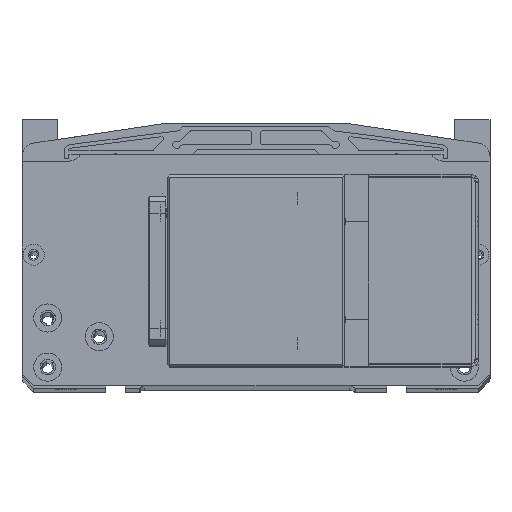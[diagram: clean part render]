
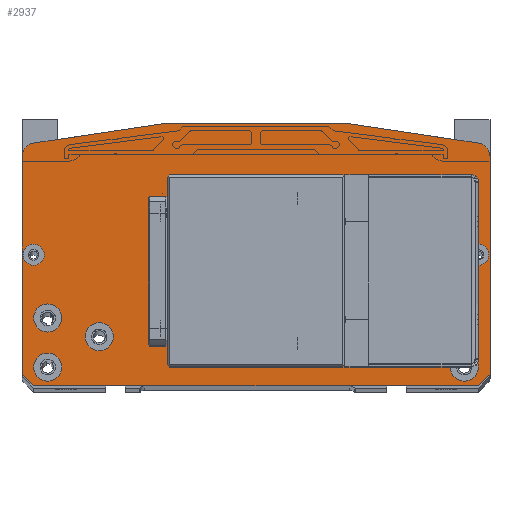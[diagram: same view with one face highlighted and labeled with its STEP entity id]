
A CAD part, top view. The second image highlights one B-rep face of the part: STEP entity #2937.
In plain terms, the highlighted planar face has unit normal (0, 0, 1).
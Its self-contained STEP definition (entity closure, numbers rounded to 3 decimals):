
#580=FACE_BOUND('',#5321,.T.);
#581=FACE_BOUND('',#5322,.T.);
#582=FACE_BOUND('',#5323,.T.);
#583=FACE_BOUND('',#5324,.T.);
#584=FACE_BOUND('',#5325,.T.);
#585=FACE_BOUND('',#5326,.T.);
#586=FACE_BOUND('',#5327,.T.);
#587=FACE_BOUND('',#5328,.T.);
#588=FACE_BOUND('',#5329,.T.);
#589=FACE_BOUND('',#5330,.T.);
#590=FACE_BOUND('',#5331,.T.);
#591=FACE_BOUND('',#5332,.T.);
#592=FACE_BOUND('',#5333,.T.);
#1235=PLANE('',#19442);
#1940=CIRCLE('',#19324,1.65);
#1955=CIRCLE('',#19353,1.65);
#1960=CIRCLE('',#19367,6.);
#1967=CIRCLE('',#19381,6.);
#1968=CIRCLE('',#19384,4.5);
#1972=CIRCLE('',#19391,4.5);
#1976=CIRCLE('',#19398,6.);
#1980=CIRCLE('',#19405,6.);
#1984=CIRCLE('',#19412,6.);
#1988=CIRCLE('',#19419,6.);
#1992=CIRCLE('',#19426,6.);
#1996=CIRCLE('',#19433,6.);
#2937=ADVANCED_FACE('',(#580,#581,#582,#583,#584,#585,#586,#587,#588,#589,
#590,#591,#592),#1235,.F.);
#5321=EDGE_LOOP('',(#11974,#11975,#11976,#11977));
#5322=EDGE_LOOP('',(#11978,#11979,#11980,#11981));
#5323=EDGE_LOOP('',(#11982));
#5324=EDGE_LOOP('',(#11983));
#5325=EDGE_LOOP('',(#11984,#11985,#11986,#11987,#11988,#11989,#11990,#11991,
#11992,#11993));
#5326=EDGE_LOOP('',(#11994));
#5327=EDGE_LOOP('',(#11995));
#5328=EDGE_LOOP('',(#11996));
#5329=EDGE_LOOP('',(#11997));
#5330=EDGE_LOOP('',(#11998));
#5331=EDGE_LOOP('',(#11999));
#5332=EDGE_LOOP('',(#12000));
#5333=EDGE_LOOP('',(#12001));
#6043=LINE('',#27149,#7455);
#6239=LINE('',#28205,#7651);
#6259=LINE('',#28250,#7671);
#6864=LINE('',#32266,#8276);
#6868=LINE('',#32274,#8280);
#6871=LINE('',#32280,#8283);
#6891=LINE('',#32316,#8303);
#6911=LINE('',#32488,#8323);
#6913=LINE('',#32491,#8325);
#6919=LINE('',#32504,#8331);
#6922=LINE('',#32510,#8334);
#6935=LINE('',#32546,#8347);
#6937=LINE('',#32631,#8349);
#6938=LINE('',#32634,#8350);
#6939=LINE('',#32636,#8351);
#6940=LINE('',#32638,#8352);
#7455=VECTOR('',#20714,1.);
#7651=VECTOR('',#21166,1.);
#7671=VECTOR('',#21216,1.);
#8276=VECTOR('',#23269,1.);
#8280=VECTOR('',#23275,1.);
#8283=VECTOR('',#23280,1.);
#8303=VECTOR('',#23312,1.);
#8323=VECTOR('',#23528,1.);
#8325=VECTOR('',#23532,1.);
#8331=VECTOR('',#23540,1.);
#8334=VECTOR('',#23545,1.);
#8347=VECTOR('',#23592,1.);
#8349=VECTOR('',#23712,1.);
#8350=VECTOR('',#23713,1.);
#8351=VECTOR('',#23714,1.);
#8352=VECTOR('',#23715,1.);
#11974=ORIENTED_EDGE('',*,*,#17343,.F.);
#11975=ORIENTED_EDGE('',*,*,#17344,.F.);
#11976=ORIENTED_EDGE('',*,*,#17345,.T.);
#11977=ORIENTED_EDGE('',*,*,#17346,.T.);
#11978=ORIENTED_EDGE('',*,*,#17186,.T.);
#11979=ORIENTED_EDGE('',*,*,#17189,.T.);
#11980=ORIENTED_EDGE('',*,*,#17209,.T.);
#11981=ORIENTED_EDGE('',*,*,#17182,.T.);
#11982=ORIENTED_EDGE('',*,*,#17244,.T.);
#11983=ORIENTED_EDGE('',*,*,#17272,.T.);
#11984=ORIENTED_EDGE('',*,*,#17277,.F.);
#11985=ORIENTED_EDGE('',*,*,#16119,.T.);
#11986=ORIENTED_EDGE('',*,*,#17309,.F.);
#11987=ORIENTED_EDGE('',*,*,#16143,.T.);
#11988=ORIENTED_EDGE('',*,*,#17308,.F.);
#11989=ORIENTED_EDGE('',*,*,#17279,.F.);
#11990=ORIENTED_EDGE('',*,*,#17285,.T.);
#11991=ORIENTED_EDGE('',*,*,#17288,.F.);
#11992=ORIENTED_EDGE('',*,*,#17289,.F.);
#11993=ORIENTED_EDGE('',*,*,#15841,.T.);
#11994=ORIENTED_EDGE('',*,*,#17339,.T.);
#11995=ORIENTED_EDGE('',*,*,#17335,.T.);
#11996=ORIENTED_EDGE('',*,*,#17331,.T.);
#11997=ORIENTED_EDGE('',*,*,#17327,.T.);
#11998=ORIENTED_EDGE('',*,*,#17323,.T.);
#11999=ORIENTED_EDGE('',*,*,#17319,.T.);
#12000=ORIENTED_EDGE('',*,*,#17315,.T.);
#12001=ORIENTED_EDGE('',*,*,#17311,.T.);
#14028=VERTEX_POINT('',#27148);
#14029=VERTEX_POINT('',#27150);
#14202=VERTEX_POINT('',#28204);
#14203=VERTEX_POINT('',#28206);
#14212=VERTEX_POINT('',#28249);
#14213=VERTEX_POINT('',#28251);
#14895=VERTEX_POINT('',#32256);
#14899=VERTEX_POINT('',#32265);
#14902=VERTEX_POINT('',#32273);
#14904=VERTEX_POINT('',#32279);
#14945=VERTEX_POINT('',#32413);
#14962=VERTEX_POINT('',#32472);
#14969=VERTEX_POINT('',#32492);
#14970=VERTEX_POINT('',#32493);
#14974=VERTEX_POINT('',#32503);
#14976=VERTEX_POINT('',#32509);
#14983=VERTEX_POINT('',#32550);
#14986=VERTEX_POINT('',#32560);
#14989=VERTEX_POINT('',#32570);
#14992=VERTEX_POINT('',#32580);
#14995=VERTEX_POINT('',#32590);
#14998=VERTEX_POINT('',#32600);
#15001=VERTEX_POINT('',#32610);
#15004=VERTEX_POINT('',#32620);
#15007=VERTEX_POINT('',#32632);
#15008=VERTEX_POINT('',#32633);
#15009=VERTEX_POINT('',#32635);
#15010=VERTEX_POINT('',#32637);
#15841=EDGE_CURVE('',#14029,#14028,#6043,.T.);
#16119=EDGE_CURVE('',#14203,#14202,#6239,.T.);
#16143=EDGE_CURVE('',#14213,#14212,#6259,.T.);
#17182=EDGE_CURVE('',#14895,#14899,#6864,.T.);
#17186=EDGE_CURVE('',#14899,#14902,#6868,.T.);
#17189=EDGE_CURVE('',#14902,#14904,#6871,.T.);
#17209=EDGE_CURVE('',#14904,#14895,#6891,.T.);
#17244=EDGE_CURVE('',#14945,#14945,#1940,.T.);
#17272=EDGE_CURVE('',#14962,#14962,#1955,.T.);
#17277=EDGE_CURVE('',#14203,#14028,#6911,.T.);
#17279=EDGE_CURVE('',#14969,#14970,#6913,.T.);
#17285=EDGE_CURVE('',#14969,#14974,#6919,.T.);
#17288=EDGE_CURVE('',#14976,#14974,#6922,.T.);
#17289=EDGE_CURVE('',#14029,#14976,#1960,.T.);
#17308=EDGE_CURVE('',#14970,#14212,#1967,.T.);
#17309=EDGE_CURVE('',#14213,#14202,#6935,.T.);
#17311=EDGE_CURVE('',#14983,#14983,#1968,.T.);
#17315=EDGE_CURVE('',#14986,#14986,#1972,.T.);
#17319=EDGE_CURVE('',#14989,#14989,#1976,.T.);
#17323=EDGE_CURVE('',#14992,#14992,#1980,.T.);
#17327=EDGE_CURVE('',#14995,#14995,#1984,.T.);
#17331=EDGE_CURVE('',#14998,#14998,#1988,.T.);
#17335=EDGE_CURVE('',#15001,#15001,#1992,.T.);
#17339=EDGE_CURVE('',#15004,#15004,#1996,.T.);
#17343=EDGE_CURVE('',#15007,#15008,#6937,.T.);
#17344=EDGE_CURVE('',#15009,#15007,#6938,.T.);
#17345=EDGE_CURVE('',#15009,#15010,#6939,.T.);
#17346=EDGE_CURVE('',#15010,#15008,#6940,.T.);
#19324=AXIS2_PLACEMENT_3D('',#32412,#23437,#23438);
#19353=AXIS2_PLACEMENT_3D('',#32471,#23508,#23509);
#19367=AXIS2_PLACEMENT_3D('',#32512,#23548,#23549);
#19381=AXIS2_PLACEMENT_3D('',#32544,#23588,#23589);
#19384=AXIS2_PLACEMENT_3D('',#32549,#23596,#23597);
#19391=AXIS2_PLACEMENT_3D('',#32559,#23610,#23611);
#19398=AXIS2_PLACEMENT_3D('',#32569,#23624,#23625);
#19405=AXIS2_PLACEMENT_3D('',#32579,#23638,#23639);
#19412=AXIS2_PLACEMENT_3D('',#32589,#23652,#23653);
#19419=AXIS2_PLACEMENT_3D('',#32599,#23666,#23667);
#19426=AXIS2_PLACEMENT_3D('',#32609,#23680,#23681);
#19433=AXIS2_PLACEMENT_3D('',#32619,#23694,#23695);
#19442=AXIS2_PLACEMENT_3D('',#32639,#23716,#23717);
#20714=DIRECTION('',(0.,-1.,0.));
#21166=DIRECTION('',(1.,0.,0.));
#21216=DIRECTION('',(0.,1.,0.));
#23269=DIRECTION('',(0.,1.,0.));
#23275=DIRECTION('',(1.,0.,0.));
#23280=DIRECTION('',(0.,-1.,0.));
#23312=DIRECTION('',(-1.,0.,0.));
#23437=DIRECTION('',(0.,0.,-1.));
#23438=DIRECTION('',(1.,0.,0.));
#23508=DIRECTION('',(0.,0.,-1.));
#23509=DIRECTION('',(1.,0.,0.));
#23528=DIRECTION('',(-0.707,0.707,0.));
#23532=DIRECTION('',(0.989,-0.148,0.));
#23540=DIRECTION('',(-1.,0.,0.));
#23545=DIRECTION('',(0.989,0.148,0.));
#23548=DIRECTION('',(0.,0.,-1.));
#23549=DIRECTION('',(-1.,0.,0.));
#23588=DIRECTION('',(0.,0.,-1.));
#23589=DIRECTION('',(0.148,0.989,0.));
#23592=DIRECTION('',(-0.707,-0.707,0.));
#23596=DIRECTION('',(0.,0.,-1.));
#23597=DIRECTION('',(1.,0.,0.));
#23610=DIRECTION('',(0.,0.,-1.));
#23611=DIRECTION('',(1.,0.,0.));
#23624=DIRECTION('',(0.,0.,-1.));
#23625=DIRECTION('',(1.,0.,0.));
#23638=DIRECTION('',(0.,0.,-1.));
#23639=DIRECTION('',(1.,0.,0.));
#23652=DIRECTION('',(0.,0.,-1.));
#23653=DIRECTION('',(1.,0.,0.));
#23666=DIRECTION('',(0.,0.,-1.));
#23667=DIRECTION('',(1.,0.,0.));
#23680=DIRECTION('',(0.,0.,-1.));
#23681=DIRECTION('',(1.,0.,0.));
#23694=DIRECTION('',(0.,0.,-1.));
#23695=DIRECTION('',(1.,0.,0.));
#23712=DIRECTION('',(1.,0.,0.));
#23713=DIRECTION('',(0.,-1.,0.));
#23714=DIRECTION('',(1.,0.,0.));
#23715=DIRECTION('',(0.,-1.,0.));
#23716=DIRECTION('',(0.,0.,-1.));
#23717=DIRECTION('',(-1.,0.,0.));
#27148=CARTESIAN_POINT('',(-100.,7.,463.));
#27149=CARTESIAN_POINT('',(-100.,99.833,463.));
#27150=CARTESIAN_POINT('',(-100.,99.833,463.));
#28204=CARTESIAN_POINT('',(95.,2.,463.));
#28205=CARTESIAN_POINT('',(67.5,2.,463.));
#28206=CARTESIAN_POINT('',(-95.,2.,463.));
#28249=CARTESIAN_POINT('',(100.,99.833,463.));
#28250=CARTESIAN_POINT('',(100.,7.,463.));
#28251=CARTESIAN_POINT('',(100.,7.,463.));
#32256=CARTESIAN_POINT('',(-37.,11.,463.));
#32265=CARTESIAN_POINT('',(-37.,91.,463.));
#32266=CARTESIAN_POINT('',(-37.,11.,463.));
#32273=CARTESIAN_POINT('',(37.,91.,463.));
#32274=CARTESIAN_POINT('',(-37.,91.,463.));
#32279=CARTESIAN_POINT('',(37.,11.,463.));
#32280=CARTESIAN_POINT('',(37.,91.,463.));
#32316=CARTESIAN_POINT('',(37.,11.,463.));
#32412=CARTESIAN_POINT('',(42.,69.,463.));
#32413=CARTESIAN_POINT('',(43.65,69.,463.));
#32471=CARTESIAN_POINT('',(42.,33.,463.));
#32472=CARTESIAN_POINT('',(43.65,33.,463.));
#32488=CARTESIAN_POINT('',(-95.,2.,463.));
#32491=CARTESIAN_POINT('',(40.,114.,463.));
#32492=CARTESIAN_POINT('',(40.,114.,463.));
#32493=CARTESIAN_POINT('',(94.89,105.766,463.));
#32503=CARTESIAN_POINT('',(-40.,114.,463.));
#32504=CARTESIAN_POINT('',(40.,114.,463.));
#32509=CARTESIAN_POINT('',(-94.89,105.766,463.));
#32510=CARTESIAN_POINT('',(-94.89,105.766,463.));
#32512=CARTESIAN_POINT('',(-94.,99.833,463.));
#32544=CARTESIAN_POINT('',(94.,99.833,463.));
#32546=CARTESIAN_POINT('',(100.,7.,463.));
#32549=CARTESIAN_POINT('',(-95.,58.,463.));
#32550=CARTESIAN_POINT('',(-90.5,58.,463.));
#32559=CARTESIAN_POINT('',(95.,58.,463.));
#32560=CARTESIAN_POINT('',(99.5,58.,463.));
#32569=CARTESIAN_POINT('',(-67.,23.,463.));
#32570=CARTESIAN_POINT('',(-61.,23.,463.));
#32579=CARTESIAN_POINT('',(67.,23.,463.));
#32580=CARTESIAN_POINT('',(73.,23.,463.));
#32589=CARTESIAN_POINT('',(-89.,31.,463.));
#32590=CARTESIAN_POINT('',(-83.,31.,463.));
#32599=CARTESIAN_POINT('',(89.,31.,463.));
#32600=CARTESIAN_POINT('',(95.,31.,463.));
#32609=CARTESIAN_POINT('',(-89.,10.,463.));
#32610=CARTESIAN_POINT('',(-83.,10.,463.));
#32619=CARTESIAN_POINT('',(89.,10.,463.));
#32620=CARTESIAN_POINT('',(95.,10.,463.));
#32631=CARTESIAN_POINT('',(-45.5,21.534,463.));
#32632=CARTESIAN_POINT('',(-45.5,21.534,463.));
#32633=CARTESIAN_POINT('',(-38.5,21.534,463.));
#32634=CARTESIAN_POINT('',(-45.5,80.466,463.));
#32635=CARTESIAN_POINT('',(-45.5,80.466,463.));
#32636=CARTESIAN_POINT('',(-45.5,80.466,463.));
#32637=CARTESIAN_POINT('',(-38.5,80.466,463.));
#32638=CARTESIAN_POINT('',(-38.5,80.466,463.));
#32639=CARTESIAN_POINT('',(0.,2.,463.));
